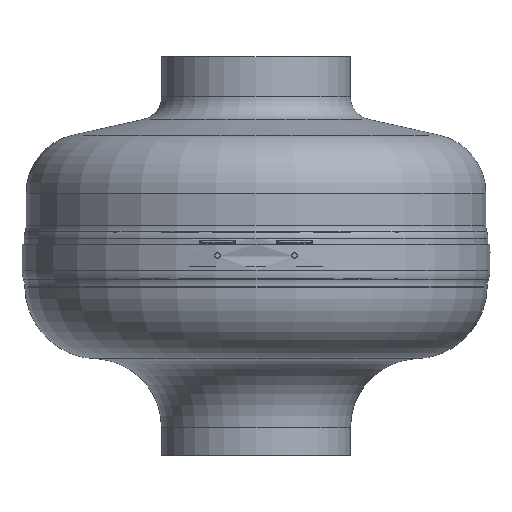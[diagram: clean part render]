
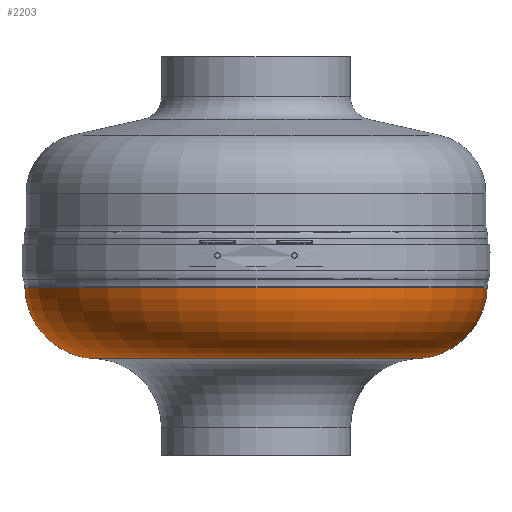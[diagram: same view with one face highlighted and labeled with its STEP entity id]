
A CAD part, front view. The second image highlights one B-rep face of the part: STEP entity #2203.
In plain terms, the highlighted toroidal (fillet/blend) face has major radius 83 mm and minor radius 38 mm.
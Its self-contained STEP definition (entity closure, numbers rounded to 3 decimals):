
#326 = ORIENTED_EDGE ( 'NONE', *, *, #7281, .T. ) ;
#418 = VERTEX_POINT ( 'NONE', #2472 ) ;
#677 = EDGE_CURVE ( 'NONE', #910, #418, #4559, .T. ) ;
#910 = VERTEX_POINT ( 'NONE', #8003 ) ;
#978 = TOROIDAL_SURFACE ( 'NONE', #6621, 83., 38. ) ;
#1136 = EDGE_CURVE ( 'NONE', #2337, #418, #1802, .T. ) ;
#1802 = CIRCLE ( 'NONE', #2901, 120.992 ) ;
#1907 = DIRECTION ( 'NONE',  ( 1., 0., 0. ) ) ;
#2082 = CARTESIAN_POINT ( 'NONE',  ( 0., 0., -47.913 ) ) ;
#2203 = ADVANCED_FACE ( 'NONE', ( #4200 ), #978, .T. ) ;
#2337 = VERTEX_POINT ( 'NONE', #6488 ) ;
#2472 = CARTESIAN_POINT ( 'NONE',  ( 120.992, 0., -10.783 ) ) ;
#2797 = CARTESIAN_POINT ( 'NONE',  ( 0., 0., -10. ) ) ;
#2901 = AXIS2_PLACEMENT_3D ( 'NONE', #4160, #4764, #3519 ) ;
#2937 = DIRECTION ( 'NONE',  ( 0., -1., 0. ) ) ;
#3414 = AXIS2_PLACEMENT_3D ( 'NONE', #2082, #6647, #1907 ) ;
#3519 = DIRECTION ( 'NONE',  ( 1., 0., 0. ) ) ;
#3779 = DIRECTION ( 'NONE',  ( 0., 1., 0. ) ) ;
#3904 = VERTEX_POINT ( 'NONE', #6064 ) ;
#4059 = CIRCLE ( 'NONE', #4330, 38. ) ;
#4160 = CARTESIAN_POINT ( 'NONE',  ( 0., 0., -10.783 ) ) ;
#4200 = FACE_OUTER_BOUND ( 'NONE', #6938, .T. ) ;
#4299 = ORIENTED_EDGE ( 'NONE', *, *, #6327, .F. ) ;
#4330 = AXIS2_PLACEMENT_3D ( 'NONE', #5762, #3779, #7090 ) ;
#4559 = CIRCLE ( 'NONE', #7302, 38. ) ;
#4764 = DIRECTION ( 'NONE',  ( 0., 0., 1. ) ) ;
#5762 = CARTESIAN_POINT ( 'NONE',  ( -83., 0., -10. ) ) ;
#5946 = ORIENTED_EDGE ( 'NONE', *, *, #1136, .F. ) ;
#6064 = CARTESIAN_POINT ( 'NONE',  ( -85.565, 0., -47.913 ) ) ;
#6327 = EDGE_CURVE ( 'NONE', #3904, #2337, #4059, .T. ) ;
#6488 = CARTESIAN_POINT ( 'NONE',  ( -120.992, 0., -10.783 ) ) ;
#6621 = AXIS2_PLACEMENT_3D ( 'NONE', #2797, #6871, #7351 ) ;
#6647 = DIRECTION ( 'NONE',  ( 0., 0., 1. ) ) ;
#6871 = DIRECTION ( 'NONE',  ( 0., 0., 1. ) ) ;
#6938 = EDGE_LOOP ( 'NONE', ( #4299, #326, #7632, #5946 ) ) ;
#7090 = DIRECTION ( 'NONE',  ( -1., 0., 0. ) ) ;
#7281 = EDGE_CURVE ( 'NONE', #3904, #910, #7803, .T. ) ;
#7302 = AXIS2_PLACEMENT_3D ( 'NONE', #8350, #2937, #8219 ) ;
#7351 = DIRECTION ( 'NONE',  ( 1., 0., 0. ) ) ;
#7632 = ORIENTED_EDGE ( 'NONE', *, *, #677, .T. ) ;
#7803 = CIRCLE ( 'NONE', #3414, 85.565 ) ;
#8003 = CARTESIAN_POINT ( 'NONE',  ( 85.565, 0., -47.913 ) ) ;
#8219 = DIRECTION ( 'NONE',  ( 1., 0., 0. ) ) ;
#8350 = CARTESIAN_POINT ( 'NONE',  ( 83., 0., -10. ) ) ;
